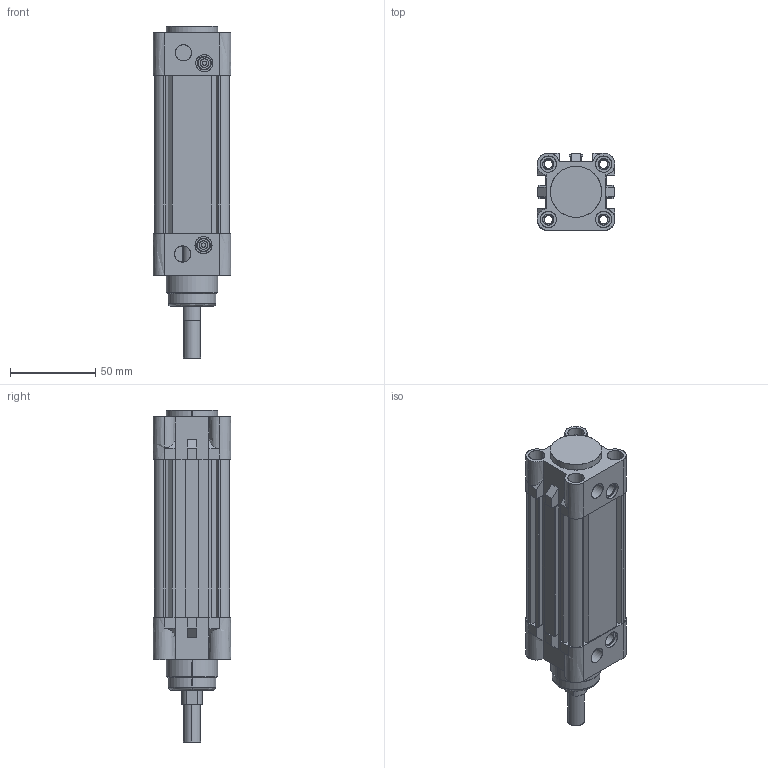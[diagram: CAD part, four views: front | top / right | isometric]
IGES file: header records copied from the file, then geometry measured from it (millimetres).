
Start section: SolidWorks IGES file using analytic representation for surfaces
Global section: file name: D:\ARICA 3D ÇÝZÝMLER\3D IGES\DNCAT-S DÖNMEZ MÝLLÝ SERÝSÝ\DNCAT-S 32\DNCAT-S-32x50CYLINDER.IGS; native system: SolidWorks 2013; preprocessor: SolidWorks 2013; author: user; date: 161217.091634; units: millimetre
Bounding box: 45.5 x 45.5 x 194.75 mm (x, y, z)
Surface area: 78084.2 mm2 (no closed solid volume)
Topology: 0 solids, 0 shells, 319 faces, 4944 edges, 4944 vertices
Faces by surface type: bspline 189, revolution 130
